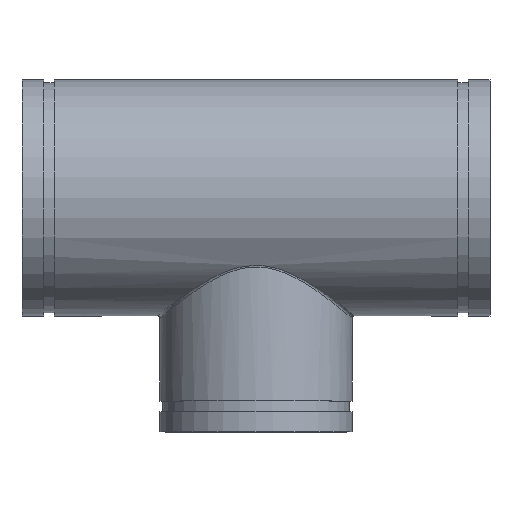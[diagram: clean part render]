
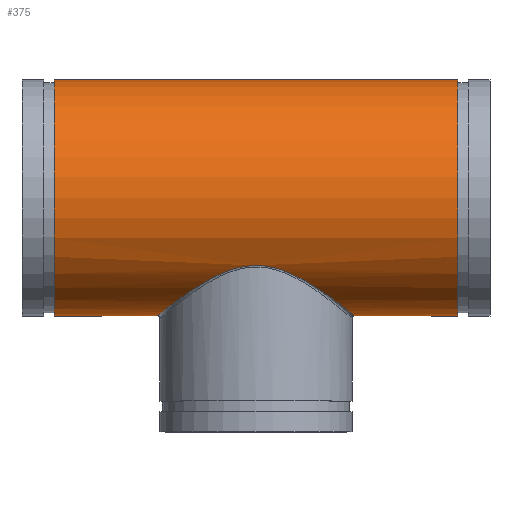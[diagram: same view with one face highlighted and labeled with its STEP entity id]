
A CAD part, top view. The second image highlights one B-rep face of the part: STEP entity #375.
In plain terms, the highlighted cylindrical face has radius 140.97 mm (diameter 281.94 mm), a full revolution.
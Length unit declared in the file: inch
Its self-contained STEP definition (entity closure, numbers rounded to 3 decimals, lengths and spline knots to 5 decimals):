
#54=FACE_BOUND('',#119,.T.);
#65=LINE('',#882,#76);
#76=VECTOR('',#483,5.55);
#87=CYLINDRICAL_SURFACE('',#415,5.55);
#98=FACE_OUTER_BOUND('',#118,.T.);
#118=EDGE_LOOP('',(#266,#267,#268,#269));
#119=EDGE_LOOP('',(#270));
#150=B_SPLINE_CURVE_WITH_KNOTS('',3,(#841,#842,#843,#844,#845,#846,#847,
#848,#849,#850,#851,#852,#853,#854,#855,#856,#857,#858,#859,#860,#861,#862,
#863,#864,#865,#866,#867,#868,#869,#870,#871,#872,#873,#874,#875,#876,#877),
 .UNSPECIFIED.,.T.,.F.,(4,1,1,1,1,1,1,1,1,1,1,1,1,1,1,1,1,1,1,1,1,1,1,1,
1,1,1,1,1,1,1,1,1,1,4),(-74.59333,-73.2613,-71.92928,
-69.26523,-66.60119,-63.93714,-60.38507,
-58.60904,-56.83301,-55.05698,-53.28095,
-52.09693,-49.72888,-46.17682,-42.62476,
-40.84873,-39.0727,-37.29666,-35.52063,
-33.7446,-31.96857,-28.41651,-24.86444,
-21.31238,-20.42436,-19.53635,-17.76032,
-15.98428,-14.20825,-10.65619,-7.99214,
-5.32809,-2.66405,-1.33202,0.),.UNSPECIFIED.);
#154=CIRCLE('',#416,5.55);
#155=CIRCLE('',#417,5.55);
#182=VERTEX_POINT('',#796);
#185=VERTEX_POINT('',#879);
#186=VERTEX_POINT('',#881);
#219=EDGE_CURVE('',#182,#182,#150,.T.);
#220=EDGE_CURVE('',#185,#185,#154,.T.);
#221=EDGE_CURVE('',#185,#186,#65,.T.);
#222=EDGE_CURVE('',#186,#186,#155,.T.);
#266=ORIENTED_EDGE('',*,*,#220,.T.);
#267=ORIENTED_EDGE('',*,*,#221,.T.);
#268=ORIENTED_EDGE('',*,*,#222,.T.);
#269=ORIENTED_EDGE('',*,*,#221,.F.);
#270=ORIENTED_EDGE('',*,*,#219,.F.);
#375=ADVANCED_FACE('',(#98,#54),#87,.T.);
#415=AXIS2_PLACEMENT_3D('',#878,#479,#480);
#416=AXIS2_PLACEMENT_3D('',#880,#481,#482);
#417=AXIS2_PLACEMENT_3D('',#883,#484,#485);
#479=DIRECTION('center_axis',(-1.,0.,0.));
#480=DIRECTION('ref_axis',(0.,-1.,0.));
#481=DIRECTION('center_axis',(1.,0.,0.));
#482=DIRECTION('ref_axis',(0.,-1.,0.));
#483=DIRECTION('',(1.,0.,0.));
#484=DIRECTION('center_axis',(-1.,0.,0.));
#485=DIRECTION('ref_axis',(0.,-1.,0.));
#796=CARTESIAN_POINT('',(0.,-3.18152,-4.54758));
#841=CARTESIAN_POINT('Ctrl Pts',(0.,-3.18152,
-4.54758));
#842=CARTESIAN_POINT('Ctrl Pts',(0.18517,-3.18152,-4.54758));
#843=CARTESIAN_POINT('Ctrl Pts',(0.55521,-3.21288,-4.52584));
#844=CARTESIAN_POINT('Ctrl Pts',(1.26632,-3.38736,-4.39971));
#845=CARTESIAN_POINT('Ctrl Pts',(2.07063,-3.74786,-4.11073));
#846=CARTESIAN_POINT('Ctrl Pts',(2.90557,-4.25371,-3.59334));
#847=CARTESIAN_POINT('Ctrl Pts',(3.69509,-4.80637,-2.83964));
#848=CARTESIAN_POINT('Ctrl Pts',(4.23741,-5.223,-1.97118));
#849=CARTESIAN_POINT('Ctrl Pts',(4.53754,-5.45989,-1.07662));
#850=CARTESIAN_POINT('Ctrl Pts',(4.65479,-5.55386,-0.36426));
#851=CARTESIAN_POINT('Ctrl Pts',(4.65495,-5.55396,0.36424));
#852=CARTESIAN_POINT('Ctrl Pts',(4.55036,-5.4702,0.99764));
#853=CARTESIAN_POINT('Ctrl Pts',(4.34369,-5.30681,1.6752));
#854=CARTESIAN_POINT('Ctrl Pts',(3.93812,-4.99123,2.50536));
#855=CARTESIAN_POINT('Ctrl Pts',(3.17279,-4.42798,3.40611));
#856=CARTESIAN_POINT('Ctrl Pts',(2.2678,-3.85354,4.01137));
#857=CARTESIAN_POINT('Ctrl Pts',(1.42994,-3.45847,4.34495));
#858=CARTESIAN_POINT('Ctrl Pts',(0.7401,-3.23869,4.50833));
#859=CARTESIAN_POINT('Ctrl Pts',(-0.00008,-3.15266,
4.56731));
#860=CARTESIAN_POINT('Ctrl Pts',(-0.74031,-3.23881,4.50828));
#861=CARTESIAN_POINT('Ctrl Pts',(-1.43011,-3.45853,4.34485));
#862=CARTESIAN_POINT('Ctrl Pts',(-2.26803,-3.8537,4.01134));
#863=CARTESIAN_POINT('Ctrl Pts',(-3.17256,-4.42798,3.40596));
#864=CARTESIAN_POINT('Ctrl Pts',(-4.03388,-5.06173,2.39308));
#865=CARTESIAN_POINT('Ctrl Pts',(-4.45194,-5.39226,1.42337));
#866=CARTESIAN_POINT('Ctrl Pts',(-4.5961,-5.5068,0.72041));
#867=CARTESIAN_POINT('Ctrl Pts',(-4.65491,-5.55394,0.24295));
#868=CARTESIAN_POINT('Ctrl Pts',(-4.65482,-5.55388,-0.36426));
#869=CARTESIAN_POINT('Ctrl Pts',(-4.53751,-5.45989,-1.07661));
#870=CARTESIAN_POINT('Ctrl Pts',(-4.23744,-5.22303,-1.97115));
#871=CARTESIAN_POINT('Ctrl Pts',(-3.69504,-4.80634,-2.83968));
#872=CARTESIAN_POINT('Ctrl Pts',(-2.90569,-4.25379,-3.59324));
#873=CARTESIAN_POINT('Ctrl Pts',(-2.07069,-3.74789,-4.11071));
#874=CARTESIAN_POINT('Ctrl Pts',(-1.26629,-3.38735,-4.39972));
#875=CARTESIAN_POINT('Ctrl Pts',(-0.55523,-3.21289,-4.52584));
#876=CARTESIAN_POINT('Ctrl Pts',(-0.18517,-3.18152,-4.54758));
#877=CARTESIAN_POINT('Ctrl Pts',(0.,-3.18152,
-4.54758));
#878=CARTESIAN_POINT('Origin',(11.,0.,0.));
#879=CARTESIAN_POINT('',(-9.485,5.55,0.));
#880=CARTESIAN_POINT('Origin',(-9.485,0.,0.));
#881=CARTESIAN_POINT('',(9.485,5.55,0.));
#882=CARTESIAN_POINT('',(11.,5.55,0.));
#883=CARTESIAN_POINT('Origin',(9.485,0.,0.));
